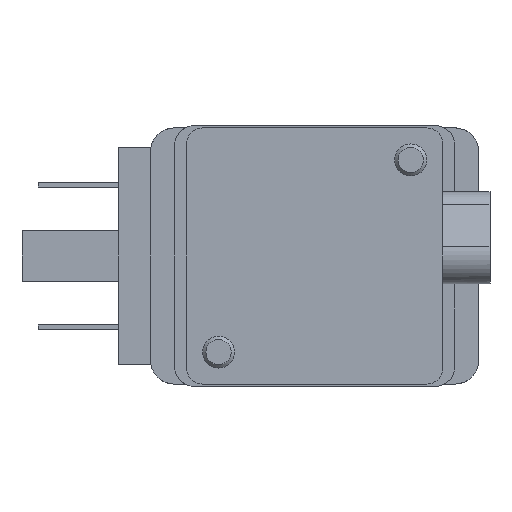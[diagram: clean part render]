
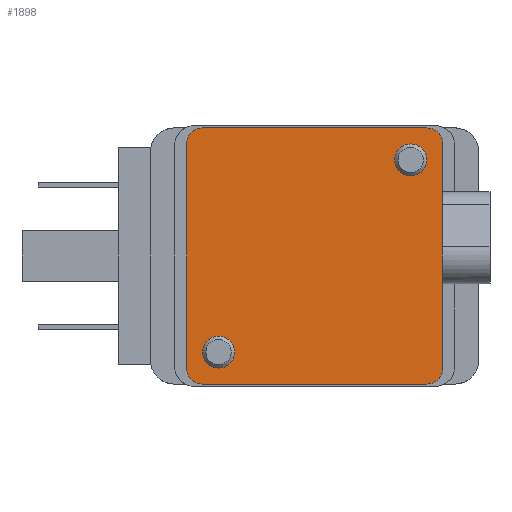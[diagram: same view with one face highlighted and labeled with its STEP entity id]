
A CAD part, front view. The second image highlights one B-rep face of the part: STEP entity #1898.
In plain terms, the highlighted planar face has unit normal (0, -1, 0).
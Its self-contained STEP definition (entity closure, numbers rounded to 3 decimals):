
#81=CIRCLE('',#2017,2.);
#82=CIRCLE('',#2018,2.);
#83=CIRCLE('',#2019,2.);
#84=CIRCLE('',#2020,2.);
#85=CIRCLE('',#2021,2.);
#86=CIRCLE('',#2022,2.);
#387=ORIENTED_EDGE('',*,*,#620,.F.);
#388=ORIENTED_EDGE('',*,*,#621,.F.);
#389=ORIENTED_EDGE('',*,*,#622,.F.);
#390=ORIENTED_EDGE('',*,*,#623,.F.);
#391=ORIENTED_EDGE('',*,*,#624,.F.);
#392=ORIENTED_EDGE('',*,*,#625,.F.);
#393=ORIENTED_EDGE('',*,*,#626,.F.);
#394=ORIENTED_EDGE('',*,*,#627,.F.);
#395=ORIENTED_EDGE('',*,*,#628,.F.);
#396=ORIENTED_EDGE('',*,*,#629,.F.);
#620=EDGE_CURVE('',#758,#758,#81,.F.);
#621=EDGE_CURVE('',#759,#759,#82,.F.);
#622=EDGE_CURVE('',#760,#761,#83,.T.);
#623=EDGE_CURVE('',#762,#760,#896,.T.);
#624=EDGE_CURVE('',#763,#762,#84,.T.);
#625=EDGE_CURVE('',#764,#763,#897,.T.);
#626=EDGE_CURVE('',#765,#764,#85,.T.);
#627=EDGE_CURVE('',#766,#765,#898,.T.);
#628=EDGE_CURVE('',#767,#766,#86,.T.);
#629=EDGE_CURVE('',#761,#767,#899,.T.);
#758=VERTEX_POINT('',#2762);
#759=VERTEX_POINT('',#2764);
#760=VERTEX_POINT('',#2766);
#761=VERTEX_POINT('',#2767);
#762=VERTEX_POINT('',#2769);
#763=VERTEX_POINT('',#2771);
#764=VERTEX_POINT('',#2773);
#765=VERTEX_POINT('',#2775);
#766=VERTEX_POINT('',#2777);
#767=VERTEX_POINT('',#2779);
#896=LINE('',#2768,#1033);
#897=LINE('',#2772,#1034);
#898=LINE('',#2776,#1035);
#899=LINE('',#2780,#1036);
#1033=VECTOR('',#2364,1000.);
#1034=VECTOR('',#2367,1000.);
#1035=VECTOR('',#2370,1000.);
#1036=VECTOR('',#2373,1000.);
#1119=EDGE_LOOP('',(#387));
#1120=EDGE_LOOP('',(#388));
#1121=EDGE_LOOP('',(#389,#390,#391,#392,#393,#394,#395,#396));
#1212=FACE_BOUND('',#1119,.T.);
#1213=FACE_BOUND('',#1120,.T.);
#1214=FACE_BOUND('',#1121,.T.);
#1282=PLANE('',#2016);
#1898=ADVANCED_FACE('',(#1212,#1213,#1214),#1282,.F.);
#2016=AXIS2_PLACEMENT_3D('',#2760,#2356,#2357);
#2017=AXIS2_PLACEMENT_3D('',#2761,#2358,#2359);
#2018=AXIS2_PLACEMENT_3D('',#2763,#2360,#2361);
#2019=AXIS2_PLACEMENT_3D('',#2765,#2362,#2363);
#2020=AXIS2_PLACEMENT_3D('',#2770,#2365,#2366);
#2021=AXIS2_PLACEMENT_3D('',#2774,#2368,#2369);
#2022=AXIS2_PLACEMENT_3D('',#2778,#2371,#2372);
#2356=DIRECTION('',(0.,1.,0.));
#2357=DIRECTION('',(0.,0.,1.));
#2358=DIRECTION('',(0.,1.,0.));
#2359=DIRECTION('',(0.,0.,1.));
#2360=DIRECTION('',(0.,1.,0.));
#2361=DIRECTION('',(0.,0.,1.));
#2362=DIRECTION('',(0.,1.,0.));
#2363=DIRECTION('',(1.,0.,0.));
#2364=DIRECTION('',(-1.,0.,0.));
#2365=DIRECTION('',(0.,1.,0.));
#2366=DIRECTION('',(1.,0.,0.));
#2367=DIRECTION('',(0.,0.,-1.));
#2368=DIRECTION('',(0.,1.,0.));
#2369=DIRECTION('',(1.,0.,0.));
#2370=DIRECTION('',(1.,0.,0.));
#2371=DIRECTION('',(0.,1.,0.));
#2372=DIRECTION('',(1.,0.,0.));
#2373=DIRECTION('',(0.,0.,1.));
#2760=CARTESIAN_POINT('',(6.5,-14.3,-30.));
#2761=CARTESIAN_POINT('',(8.5,-14.3,-28.));
#2762=CARTESIAN_POINT('',(8.5,-14.3,-26.));
#2763=CARTESIAN_POINT('',(32.5,-14.3,-4.));
#2764=CARTESIAN_POINT('',(32.5,-14.3,-2.));
#2765=CARTESIAN_POINT('',(6.5,-14.3,-30.));
#2766=CARTESIAN_POINT('',(6.5,-14.3,-32.));
#2767=CARTESIAN_POINT('',(4.5,-14.3,-30.));
#2768=CARTESIAN_POINT('',(34.5,-14.3,-32.));
#2769=CARTESIAN_POINT('',(34.5,-14.3,-32.));
#2770=CARTESIAN_POINT('',(34.5,-14.3,-30.));
#2771=CARTESIAN_POINT('',(36.5,-14.3,-30.));
#2772=CARTESIAN_POINT('',(36.5,-14.3,-2.));
#2773=CARTESIAN_POINT('',(36.5,-14.3,-2.));
#2774=CARTESIAN_POINT('',(34.5,-14.3,-2.));
#2775=CARTESIAN_POINT('',(34.5,-14.3,0.));
#2776=CARTESIAN_POINT('',(6.5,-14.3,0.));
#2777=CARTESIAN_POINT('',(6.5,-14.3,0.));
#2778=CARTESIAN_POINT('',(6.5,-14.3,-2.));
#2779=CARTESIAN_POINT('',(4.5,-14.3,-2.));
#2780=CARTESIAN_POINT('',(4.5,-14.3,-30.));
